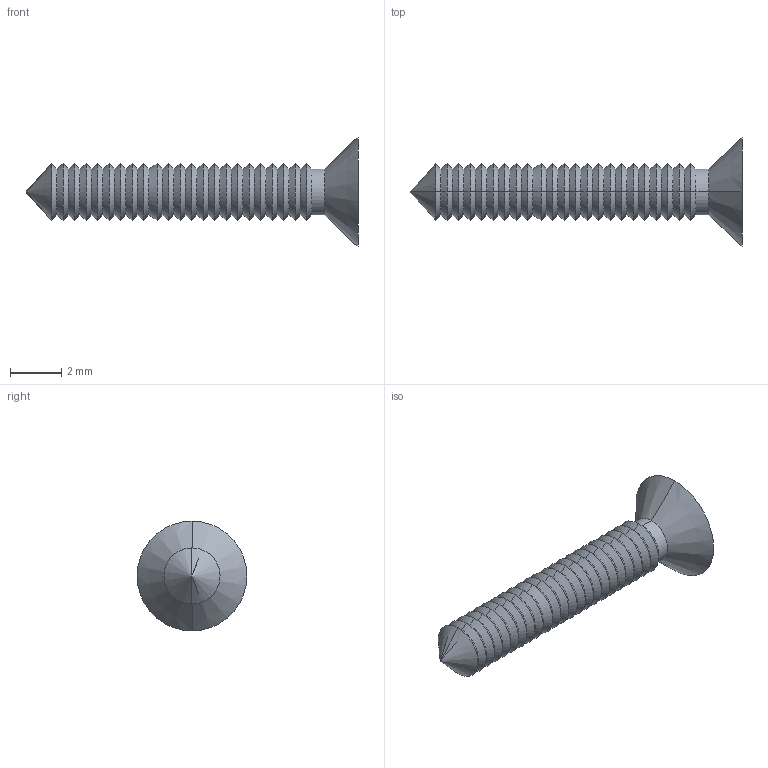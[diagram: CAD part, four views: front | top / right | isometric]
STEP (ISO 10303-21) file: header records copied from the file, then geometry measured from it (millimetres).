
FILE_DESCRIPTION (( 'STEP AP214' ), '1' );
FILE_NAME ('Cargol 2,2x13 PP81.STEP', '2018-01-19T09:42:06', ( 'aaa' ), ( '' ), 'SwSTEP 2.0', 'SolidWorks 2013', '' );
FILE_SCHEMA (( 'AUTOMOTIVE_DESIGN' ));
Length unit declared in the file: millimetre
Products named in the file (1): Cargol 2,2x13 PP81
Bounding box: 13 x 4.3 x 4.3 mm (x, y, z)
Volume: 44.3 mm3; surface area: 127.9 mm2
Topology: 1 solids, 1 shells, 110 faces, 230 edges, 121 vertices
Faces by surface type: cone 94, plane 14, cylinder 2
Entity records: 2858 total; most frequent: DIRECTION 546, CARTESIAN_POINT 460, ORIENTED_EDGE 456, EDGE_CURVE 228, AXIS2_PLACEMENT_3D 207, VECTOR 132, LINE 132, VERTEX_POINT 121
